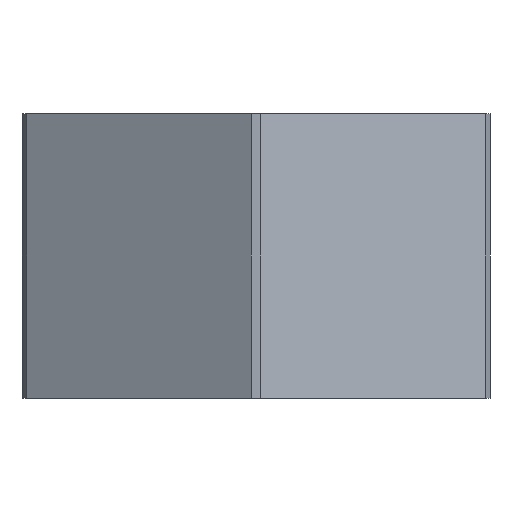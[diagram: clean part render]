
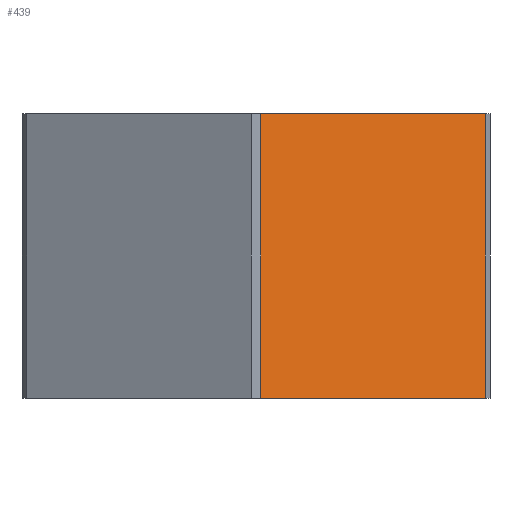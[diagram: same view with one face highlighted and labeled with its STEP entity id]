
A CAD part, left-side view. The second image highlights one B-rep face of the part: STEP entity #439.
In plain terms, the highlighted planar face has unit normal (-0.866, -0.5, 0).
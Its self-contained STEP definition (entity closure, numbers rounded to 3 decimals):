
#45 = PLANE('',#46);
#46 = AXIS2_PLACEMENT_3D('',#47,#48,#49);
#47 = CARTESIAN_POINT('',(0.,0.,0.));
#48 = DIRECTION('',(0.,0.,1.));
#49 = DIRECTION('',(1.,0.,-0.));
#100 = PLANE('',#101);
#101 = AXIS2_PLACEMENT_3D('',#102,#103,#104);
#102 = CARTESIAN_POINT('',(0.,0.,8.5));
#103 = DIRECTION('',(0.,0.,1.));
#104 = DIRECTION('',(1.,0.,-0.));
#331 = CYLINDRICAL_SURFACE('',#332,8.);
#332 = AXIS2_PLACEMENT_3D('',#333,#334,#335);
#333 = CARTESIAN_POINT('',(0.,0.,0.));
#334 = DIRECTION('',(0.,0.,1.));
#335 = DIRECTION('',(1.,0.,-0.));
#369 = VERTEX_POINT('',#370);
#370 = CARTESIAN_POINT('',(-4.126,-6.854,8.5));
#392 = EDGE_CURVE('',#393,#369,#395,.T.);
#393 = VERTEX_POINT('',#394);
#394 = CARTESIAN_POINT('',(-4.126,-6.854,0.));
#395 = SURFACE_CURVE('',#396,(#400,#406),.PCURVE_S1.);
#396 = LINE('',#397,#398);
#397 = CARTESIAN_POINT('',(-4.126,-6.854,0.));
#398 = VECTOR('',#399,1.);
#399 = DIRECTION('',(0.,0.,1.));
#400 = PCURVE('',#331,#401);
#401 = DEFINITIONAL_REPRESENTATION('',(#402),#405);
#402 = B_SPLINE_CURVE_WITH_KNOTS('',1,(#403,#404),.UNSPECIFIED.,.F.,.F.,
  (2,2),(0.,8.5),.PIECEWISE_BEZIER_KNOTS.);
#403 = CARTESIAN_POINT('',(4.171,0.));
#404 = CARTESIAN_POINT('',(4.171,8.5));
#405 = ( GEOMETRIC_REPRESENTATION_CONTEXT(2) 
PARAMETRIC_REPRESENTATION_CONTEXT() REPRESENTATION_CONTEXT('2D SPACE',''
  ) );
#406 = PCURVE('',#407,#412);
#407 = PLANE('',#408);
#408 = AXIS2_PLACEMENT_3D('',#409,#410,#411);
#409 = CARTESIAN_POINT('',(-8.083,0.,0.));
#410 = DIRECTION('',(0.866,0.5,-0.));
#411 = DIRECTION('',(0.5,-0.866,0.));
#412 = DEFINITIONAL_REPRESENTATION('',(#413),#416);
#413 = B_SPLINE_CURVE_WITH_KNOTS('',1,(#414,#415),.UNSPECIFIED.,.F.,.F.,
  (2,2),(0.,8.5),.PIECEWISE_BEZIER_KNOTS.);
#414 = CARTESIAN_POINT('',(7.914,0.));
#415 = CARTESIAN_POINT('',(7.914,-8.5));
#416 = ( GEOMETRIC_REPRESENTATION_CONTEXT(2) 
PARAMETRIC_REPRESENTATION_CONTEXT() REPRESENTATION_CONTEXT('2D SPACE',''
  ) );
#439 = ADVANCED_FACE('',(#440),#407,.F.);
#440 = FACE_BOUND('',#441,.F.);
#441 = EDGE_LOOP('',(#442,#465,#491,#512));
#442 = ORIENTED_EDGE('',*,*,#443,.F.);
#443 = EDGE_CURVE('',#444,#393,#446,.T.);
#444 = VERTEX_POINT('',#445);
#445 = CARTESIAN_POINT('',(-7.999,-0.146,0.));
#446 = SURFACE_CURVE('',#447,(#451,#458),.PCURVE_S1.);
#447 = LINE('',#448,#449);
#448 = CARTESIAN_POINT('',(-8.083,0.,0.));
#449 = VECTOR('',#450,1.);
#450 = DIRECTION('',(0.5,-0.866,0.));
#451 = PCURVE('',#407,#452);
#452 = DEFINITIONAL_REPRESENTATION('',(#453),#457);
#453 = LINE('',#454,#455);
#454 = CARTESIAN_POINT('',(0.,0.));
#455 = VECTOR('',#456,1.);
#456 = DIRECTION('',(1.,0.));
#457 = ( GEOMETRIC_REPRESENTATION_CONTEXT(2) 
PARAMETRIC_REPRESENTATION_CONTEXT() REPRESENTATION_CONTEXT('2D SPACE',''
  ) );
#458 = PCURVE('',#45,#459);
#459 = DEFINITIONAL_REPRESENTATION('',(#460),#464);
#460 = LINE('',#461,#462);
#461 = CARTESIAN_POINT('',(-8.083,0.));
#462 = VECTOR('',#463,1.);
#463 = DIRECTION('',(0.5,-0.866));
#464 = ( GEOMETRIC_REPRESENTATION_CONTEXT(2) 
PARAMETRIC_REPRESENTATION_CONTEXT() REPRESENTATION_CONTEXT('2D SPACE',''
  ) );
#465 = ORIENTED_EDGE('',*,*,#466,.T.);
#466 = EDGE_CURVE('',#444,#467,#469,.T.);
#467 = VERTEX_POINT('',#468);
#468 = CARTESIAN_POINT('',(-7.999,-0.146,8.5));
#469 = SURFACE_CURVE('',#470,(#474,#480),.PCURVE_S1.);
#470 = LINE('',#471,#472);
#471 = CARTESIAN_POINT('',(-7.999,-0.146,0.));
#472 = VECTOR('',#473,1.);
#473 = DIRECTION('',(0.,0.,1.));
#474 = PCURVE('',#407,#475);
#475 = DEFINITIONAL_REPRESENTATION('',(#476),#479);
#476 = B_SPLINE_CURVE_WITH_KNOTS('',1,(#477,#478),.UNSPECIFIED.,.F.,.F.,
  (2,2),(0.,8.5),.PIECEWISE_BEZIER_KNOTS.);
#477 = CARTESIAN_POINT('',(0.168,0.));
#478 = CARTESIAN_POINT('',(0.168,-8.5));
#479 = ( GEOMETRIC_REPRESENTATION_CONTEXT(2) 
PARAMETRIC_REPRESENTATION_CONTEXT() REPRESENTATION_CONTEXT('2D SPACE',''
  ) );
#480 = PCURVE('',#481,#486);
#481 = CYLINDRICAL_SURFACE('',#482,8.);
#482 = AXIS2_PLACEMENT_3D('',#483,#484,#485);
#483 = CARTESIAN_POINT('',(0.,0.,0.));
#484 = DIRECTION('',(0.,0.,1.));
#485 = DIRECTION('',(1.,0.,-0.));
#486 = DEFINITIONAL_REPRESENTATION('',(#487),#490);
#487 = B_SPLINE_CURVE_WITH_KNOTS('',1,(#488,#489),.UNSPECIFIED.,.F.,.F.,
  (2,2),(0.,8.5),.PIECEWISE_BEZIER_KNOTS.);
#488 = CARTESIAN_POINT('',(3.16,0.));
#489 = CARTESIAN_POINT('',(3.16,8.5));
#490 = ( GEOMETRIC_REPRESENTATION_CONTEXT(2) 
PARAMETRIC_REPRESENTATION_CONTEXT() REPRESENTATION_CONTEXT('2D SPACE',''
  ) );
#491 = ORIENTED_EDGE('',*,*,#492,.T.);
#492 = EDGE_CURVE('',#467,#369,#493,.T.);
#493 = SURFACE_CURVE('',#494,(#498,#505),.PCURVE_S1.);
#494 = LINE('',#495,#496);
#495 = CARTESIAN_POINT('',(-8.083,0.,8.5));
#496 = VECTOR('',#497,1.);
#497 = DIRECTION('',(0.5,-0.866,0.));
#498 = PCURVE('',#407,#499);
#499 = DEFINITIONAL_REPRESENTATION('',(#500),#504);
#500 = LINE('',#501,#502);
#501 = CARTESIAN_POINT('',(0.,-8.5));
#502 = VECTOR('',#503,1.);
#503 = DIRECTION('',(1.,0.));
#504 = ( GEOMETRIC_REPRESENTATION_CONTEXT(2) 
PARAMETRIC_REPRESENTATION_CONTEXT() REPRESENTATION_CONTEXT('2D SPACE',''
  ) );
#505 = PCURVE('',#100,#506);
#506 = DEFINITIONAL_REPRESENTATION('',(#507),#511);
#507 = LINE('',#508,#509);
#508 = CARTESIAN_POINT('',(-8.083,0.));
#509 = VECTOR('',#510,1.);
#510 = DIRECTION('',(0.5,-0.866));
#511 = ( GEOMETRIC_REPRESENTATION_CONTEXT(2) 
PARAMETRIC_REPRESENTATION_CONTEXT() REPRESENTATION_CONTEXT('2D SPACE',''
  ) );
#512 = ORIENTED_EDGE('',*,*,#392,.F.);
